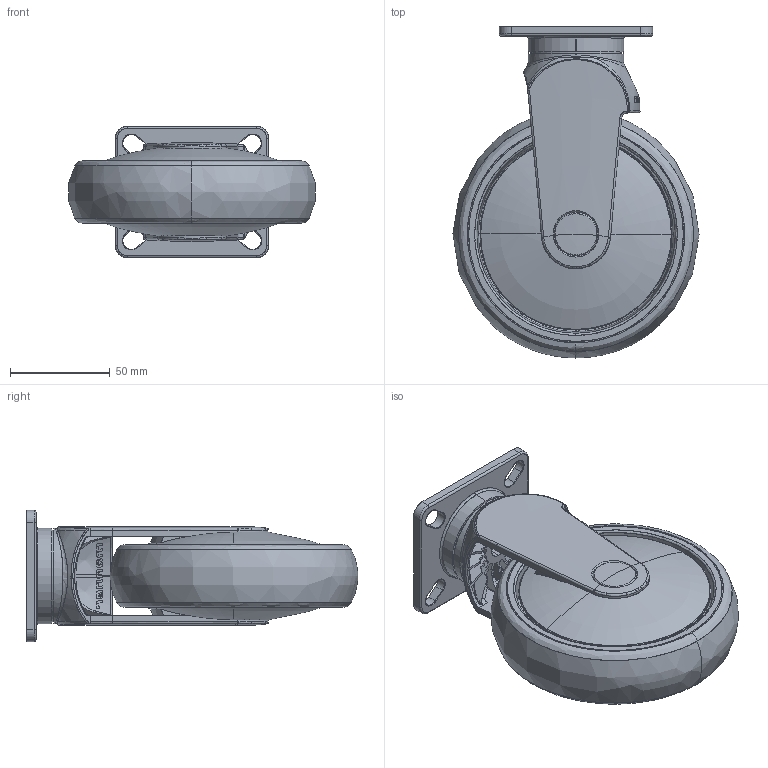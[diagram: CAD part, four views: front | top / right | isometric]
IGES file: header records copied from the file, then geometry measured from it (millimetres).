
Start section: SolidWorks IGES file using analytic representation for surfaces
Global section: file name: S:\Tyokansio\VL\301045_IGES.IGS; native system: SolidWorks 2011; preprocessor: SolidWorks 2011; author: VilleLa; date: 110622.135350; units: millimetre
Bounding box: 123.74 x 166.75 x 66 mm (x, y, z)
Surface area: 107259 mm2 (no closed solid volume)
Topology: 0 solids, 0 shells, 594 faces, 6810 edges, 6796 vertices
Faces by surface type: bspline 419, revolution 175
